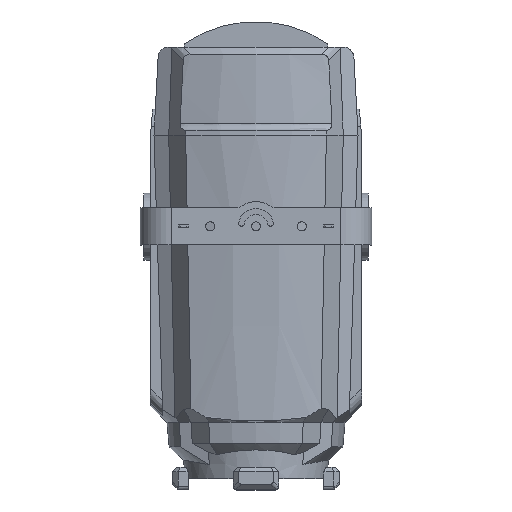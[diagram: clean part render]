
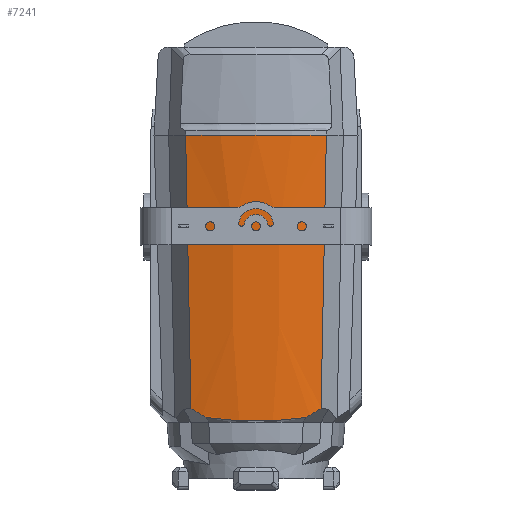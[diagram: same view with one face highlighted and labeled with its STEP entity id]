
A CAD part, top view. The second image highlights one B-rep face of the part: STEP entity #7241.
In plain terms, the highlighted conical face has half-angle 1.8 degrees and reference radius 340 mm.
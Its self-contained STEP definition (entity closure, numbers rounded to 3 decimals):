
#1821=CIRCLE('',#7735,340.);
#1974=ELLIPSE('',#7734,451.927,319.403);
#1975=ELLIPSE('',#7736,451.927,319.403);
#2212=ORIENTED_EDGE('',*,*,#4418,.F.);
#2213=ORIENTED_EDGE('',*,*,#4417,.T.);
#2214=ORIENTED_EDGE('',*,*,#4419,.T.);
#2215=ORIENTED_EDGE('',*,*,#4420,.F.);
#2216=ORIENTED_EDGE('',*,*,#4421,.F.);
#2217=ORIENTED_EDGE('',*,*,#4422,.F.);
#4417=EDGE_CURVE('',#5509,#5513,#6191,.T.);
#4418=EDGE_CURVE('',#5509,#5514,#1974,.F.);
#4419=EDGE_CURVE('',#5513,#5515,#1821,.T.);
#4420=EDGE_CURVE('',#5516,#5515,#6192,.T.);
#4421=EDGE_CURVE('',#5517,#5516,#1975,.F.);
#4422=EDGE_CURVE('',#5514,#5517,#6193,.T.);
#5509=VERTEX_POINT('',#10826);
#5513=VERTEX_POINT('',#10837);
#5514=VERTEX_POINT('',#10844);
#5515=VERTEX_POINT('',#10846);
#5516=VERTEX_POINT('',#10851);
#5517=VERTEX_POINT('',#10853);
#6191=B_SPLINE_CURVE_WITH_KNOTS('',3,(#10838,#10839,#10840,#10841),
 .UNSPECIFIED.,.F.,.F.,(4,4),(0.02,0.408),
 .UNSPECIFIED.);
#6192=B_SPLINE_CURVE_WITH_KNOTS('',3,(#10847,#10848,#10849,#10850),
 .UNSPECIFIED.,.F.,.F.,(4,4),(0.02,0.408),
 .UNSPECIFIED.);
#6193=B_SPLINE_CURVE_WITH_KNOTS('',3,(#10854,#10855,#10856,#10857,#10858,
#10859,#10860,#10861,#10862,#10863,#10864),.UNSPECIFIED.,.F.,.F.,(4,1,1,
1,1,1,1,1,4),(0.023,0.058,0.076,
0.094,0.103,0.112,0.13,
0.148,0.166),.UNSPECIFIED.);
#6301=EDGE_LOOP('',(#2212,#2213,#2214,#2215,#2216,#2217));
#6761=FACE_BOUND('',#6301,.T.);
#7208=CONICAL_SURFACE('',#7733,340.,0.031);
#7241=ADVANCED_FACE('',(#6761),#7208,.T.);
#7733=AXIS2_PLACEMENT_3D('',#10842,#8504,#8505);
#7734=AXIS2_PLACEMENT_3D('',#10843,#8506,#8507);
#7735=AXIS2_PLACEMENT_3D('',#10845,#8508,#8509);
#7736=AXIS2_PLACEMENT_3D('',#10852,#8510,#8511);
#8504=DIRECTION('',(0.,1.,0.));
#8505=DIRECTION('',(0.,0.,1.));
#8506=DIRECTION('',(-0.544,0.707,-0.452));
#8507=DIRECTION('',(0.544,0.707,0.452));
#8508=DIRECTION('',(0.,-1.,0.));
#8509=DIRECTION('',(-1.,0.,0.));
#8510=DIRECTION('',(0.544,0.707,-0.452));
#8511=DIRECTION('',(-0.544,0.707,0.452));
#10826=CARTESIAN_POINT('',(92.416,-388.286,105.993));
#10837=CARTESIAN_POINT('',(100.,0.,116.454));
#10838=CARTESIAN_POINT('',(92.416,-388.286,105.993));
#10839=CARTESIAN_POINT('',(94.936,-258.857,109.492));
#10840=CARTESIAN_POINT('',(97.464,-129.429,112.978));
#10841=CARTESIAN_POINT('',(100.,0.,116.454));
#10842=CARTESIAN_POINT('',(0.,0.,-208.508));
#10843=CARTESIAN_POINT('',(7.721,-650.396,-202.086));
#10844=CARTESIAN_POINT('',(71.058,-401.46,111.071));
#10845=CARTESIAN_POINT('',(0.,0.,-208.508));
#10846=CARTESIAN_POINT('',(-100.,0.,116.454));
#10847=CARTESIAN_POINT('',(-92.416,-388.286,105.993));
#10848=CARTESIAN_POINT('',(-94.936,-258.857,109.492));
#10849=CARTESIAN_POINT('',(-97.464,-129.429,112.978));
#10850=CARTESIAN_POINT('',(-100.,0.,116.454));
#10851=CARTESIAN_POINT('',(-92.416,-388.286,105.993));
#10852=CARTESIAN_POINT('',(-7.721,-650.396,-202.086));
#10853=CARTESIAN_POINT('',(-71.058,-401.46,111.071));
#10854=CARTESIAN_POINT('',(71.058,-401.46,111.071));
#10855=CARTESIAN_POINT('',(59.475,-403.148,113.592));
#10856=CARTESIAN_POINT('',(41.917,-405.091,116.448));
#10857=CARTESIAN_POINT('',(18.134,-406.418,118.382));
#10858=CARTESIAN_POINT('',(3.103,-406.702,118.794));
#10859=CARTESIAN_POINT('',(-9.007,-406.591,118.632));
#10860=CARTESIAN_POINT('',(-21.024,-406.256,118.145));
#10861=CARTESIAN_POINT('',(-35.925,-405.427,116.937));
#10862=CARTESIAN_POINT('',(-53.605,-403.798,114.546));
#10863=CARTESIAN_POINT('',(-65.262,-402.305,112.333));
#10864=CARTESIAN_POINT('',(-71.058,-401.46,111.071));
